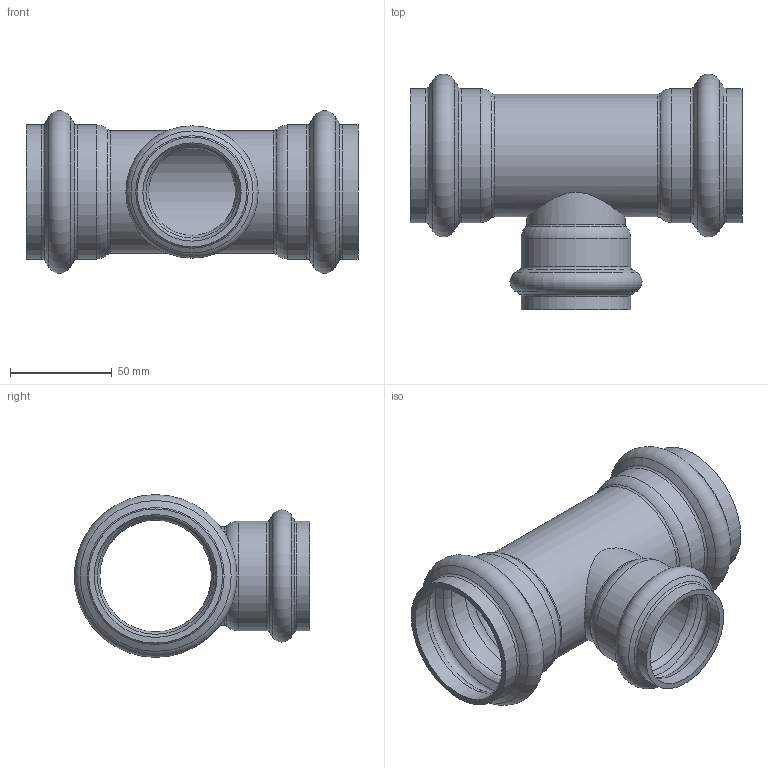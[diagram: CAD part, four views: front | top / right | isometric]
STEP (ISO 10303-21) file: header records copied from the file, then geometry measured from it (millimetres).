
FILE_DESCRIPTION(/* description */ ('VIC TEE RED. BRANCH STYLE P593 (P X P X P)','CAx-IF Rec.Pracs.---Representation and Presentation of Product Manufacturing Information (PMI)---4.0---2014-10-13'),/* implementation_level */ '2;1');
FILE_NAME(/* name */ 'C:\Users\Vjadhav\AppData\Roaming\Autodesk\ApplicationPlugins\Back Up\Victaulic_SS-Vic-Press-TP 304_Tee Reducing_Style P593 (VP)\Victaulic_SS-Vic-Press-TP 304_Tee Reducing_Style P593 (VP)_02.0x01.5 (50x40).stp',/* time_stamp */ '2020-08-12T18:32:41+05:00',/* author */ ('cgray'),/* organization */ ('Victaulic'),/* preprocessor_version */ 'ST-DEVELOPER v17.2',/* originating_system */ 'Autodesk Inventor 2019',/* authorisation */ '');
FILE_SCHEMA (('AP242_MANAGED_MODEL_BASED_3D_ENGINEERING_MIM_LF { 1 0 10303 442 1 1 4 }'));
Length unit declared in the file: inch
Products named in the file (1): P593-02.0x01.5
Bounding box: 163.07 x 115.66 x 79.93 mm (x, y, z)
Volume: 117030.4 mm3; surface area: 86062.1 mm2
Topology: 1 solids, 1 shells, 61 faces, 220 edges, 160 vertices
Faces by surface type: torus 30, cylinder 16, cone 12, plane 3
Full cylindrical faces by diameter (mm): 42.723 x1, 48.26 x3, 53.797 x2, 54.788 x1, 60.325 x5, 65.862 x4
Entity records: 2857 total; most frequent: CARTESIAN_POINT 595, DIRECTION 544, ORIENTED_EDGE 440, AXIS2_PLACEMENT_3D 257, EDGE_CURVE 220, CIRCLE 182, VERTEX_POINT 160, EDGE_LOOP 64
